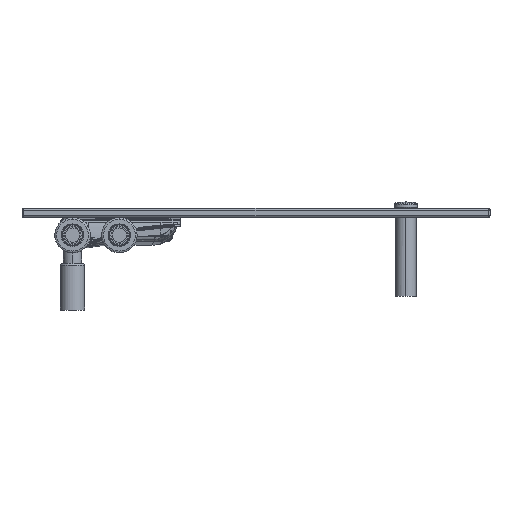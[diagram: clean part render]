
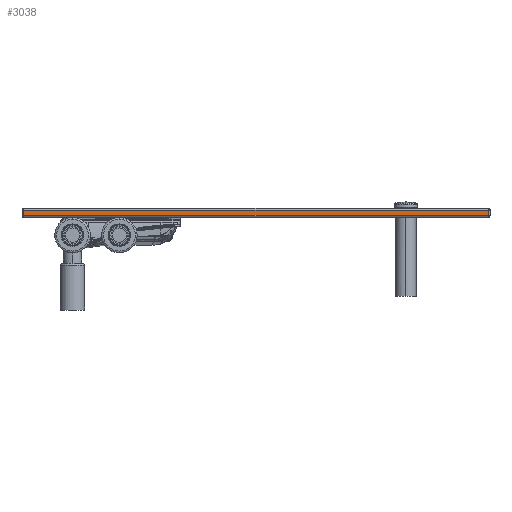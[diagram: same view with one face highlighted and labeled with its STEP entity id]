
A CAD part, front view. The second image highlights one B-rep face of the part: STEP entity #3038.
In plain terms, the highlighted planar face has unit normal (0, -1, 0).
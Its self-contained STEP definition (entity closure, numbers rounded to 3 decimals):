
#2509=DIRECTION('',(1.,0.,0.));
#2510=VECTOR('',#2509,496.);
#2511=CARTESIAN_POINT('',(-52.,15.,21.25));
#2512=LINE('',#2511,#2510);
#2524=DIRECTION('',(0.,0.,1.));
#2525=VECTOR('',#2524,5.5);
#2526=CARTESIAN_POINT('',(-52.,15.,21.25));
#2527=LINE('',#2526,#2525);
#2531=DIRECTION('',(1.,0.,0.));
#2532=VECTOR('',#2531,496.);
#2533=CARTESIAN_POINT('',(-52.,15.,26.75));
#2534=LINE('',#2533,#2532);
#2538=DIRECTION('',(0.,0.,-1.));
#2539=VECTOR('',#2538,5.5);
#2540=CARTESIAN_POINT('',(444.,15.,26.75));
#2541=LINE('',#2540,#2539);
#2702=CARTESIAN_POINT('',(-52.,15.,21.25));
#2703=VERTEX_POINT('',#2702);
#2706=CARTESIAN_POINT('',(-52.,15.,26.75));
#2707=VERTEX_POINT('',#2706);
#2742=CARTESIAN_POINT('',(444.,15.,26.75));
#2743=VERTEX_POINT('',#2742);
#2746=CARTESIAN_POINT('',(444.,15.,21.25));
#2747=VERTEX_POINT('',#2746);
#3025=CARTESIAN_POINT('',(-54.,15.,26.75));
#3026=DIRECTION('',(0.,-1.,0.));
#3027=DIRECTION('',(0.,0.,-1.));
#3028=AXIS2_PLACEMENT_3D('',#3025,#3026,#3027);
#3029=PLANE('',#3028);
#3030=ORIENTED_EDGE('',*,*,#2856,.T.);
#3032=ORIENTED_EDGE('',*,*,#3031,.T.);
#3034=ORIENTED_EDGE('',*,*,#3033,.T.);
#3035=ORIENTED_EDGE('',*,*,#3017,.F.);
#3036=EDGE_LOOP('',(#3030,#3032,#3034,#3035));
#3037=FACE_OUTER_BOUND('',#3036,.F.);
#2856=EDGE_CURVE('',#2703,#2707,#2527,.T.);
#3017=EDGE_CURVE('',#2703,#2747,#2512,.T.);
#3031=EDGE_CURVE('',#2707,#2743,#2534,.T.);
#3033=EDGE_CURVE('',#2743,#2747,#2541,.T.);
#3038=ADVANCED_FACE('',(#3037),#3029,.T.);
